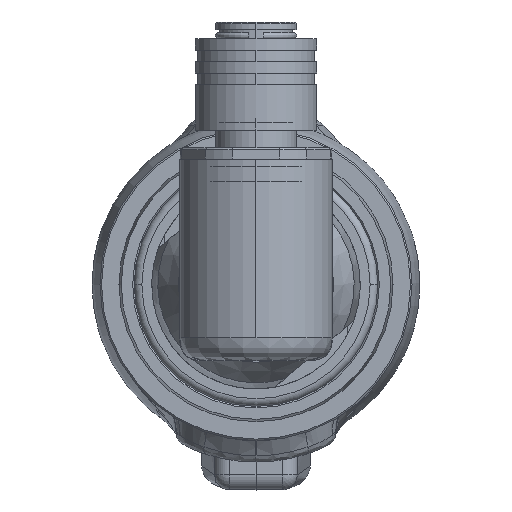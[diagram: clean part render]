
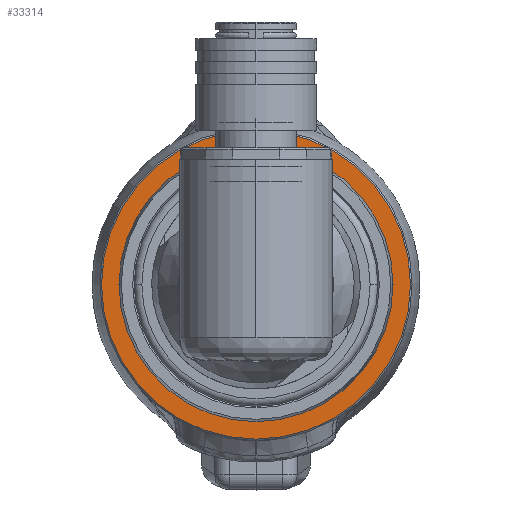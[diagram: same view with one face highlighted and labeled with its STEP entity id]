
A CAD part, left-side view. The second image highlights one B-rep face of the part: STEP entity #33314.
In plain terms, the highlighted planar face has unit normal (-1, 0, 0) as drawn and (0, 1, 0) by its records, which use the part's own axes.
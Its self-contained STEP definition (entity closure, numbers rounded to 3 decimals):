
#32300=CARTESIAN_POINT('',(0.,10.,0.));
#32301=DIRECTION('',(0.,1.,0.));
#32302=DIRECTION('',(1.,0.,0.));
#32303=AXIS2_PLACEMENT_3D('',#32300,#32301,#32302);
#32308=CARTESIAN_POINT('',(0.,10.,0.));
#32309=DIRECTION('',(0.,-1.,0.));
#32310=DIRECTION('',(1.,0.,0.));
#32311=AXIS2_PLACEMENT_3D('',#32308,#32309,#32310);
#32316=CARTESIAN_POINT('',(0.,10.,0.));
#32317=DIRECTION('',(0.,-1.,0.));
#32318=DIRECTION('',(1.,0.,0.));
#32319=AXIS2_PLACEMENT_3D('',#32316,#32317,#32318);
#32324=CARTESIAN_POINT('',(0.,10.,0.));
#32325=DIRECTION('',(0.,-1.,0.));
#32326=DIRECTION('',(-1.,0.,0.));
#32327=AXIS2_PLACEMENT_3D('',#32324,#32325,#32326);
#32557=CARTESIAN_POINT('',(18.,10.,0.));
#32558=CARTESIAN_POINT('',(-18.,10.,0.));
#32559=VERTEX_POINT('',#32557);
#32560=VERTEX_POINT('',#32558);
#32565=CARTESIAN_POINT('',(20.3,10.,0.));
#32566=CARTESIAN_POINT('',(-20.3,10.,0.));
#32567=VERTEX_POINT('',#32565);
#32568=VERTEX_POINT('',#32566);
#33299=CARTESIAN_POINT('',(0.,10.,0.));
#33300=DIRECTION('',(0.,1.,0.));
#33301=DIRECTION('',(1.,0.,0.));
#33302=AXIS2_PLACEMENT_3D('',#33299,#33300,#33301);
#33303=PLANE('',#33302);
#33305=ORIENTED_EDGE('',*,*,#33304,.T.);
#33307=ORIENTED_EDGE('',*,*,#33306,.T.);
#33308=EDGE_LOOP('',(#33305,#33307));
#33309=FACE_OUTER_BOUND('',#33308,.F.);
#33310=ORIENTED_EDGE('',*,*,#33279,.T.);
#33311=ORIENTED_EDGE('',*,*,#33293,.F.);
#33312=EDGE_LOOP('',(#33310,#33311));
#33313=FACE_BOUND('',#33312,.F.);
#33314=ADVANCED_FACE('',(#33309,#33313),#33303,.T.);
#32304=CIRCLE('',#32303,18.);
#32312=CIRCLE('',#32311,18.);
#32320=CIRCLE('',#32319,20.3);
#32328=CIRCLE('',#32327,20.3);
#33279=EDGE_CURVE('',#32559,#32560,#32304,.T.);
#33293=EDGE_CURVE('',#32559,#32560,#32312,.T.);
#33304=EDGE_CURVE('',#32567,#32568,#32320,.T.);
#33306=EDGE_CURVE('',#32568,#32567,#32328,.T.);
